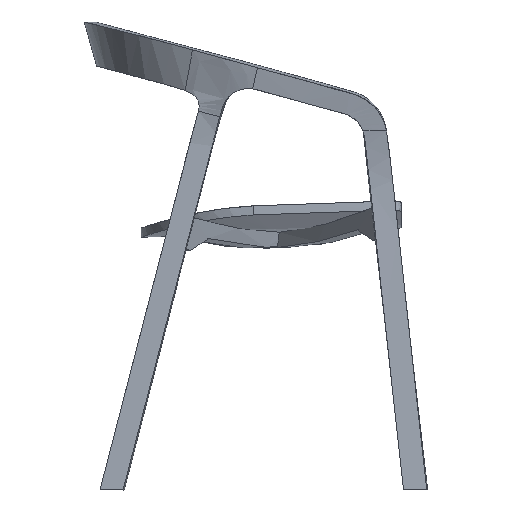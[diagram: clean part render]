
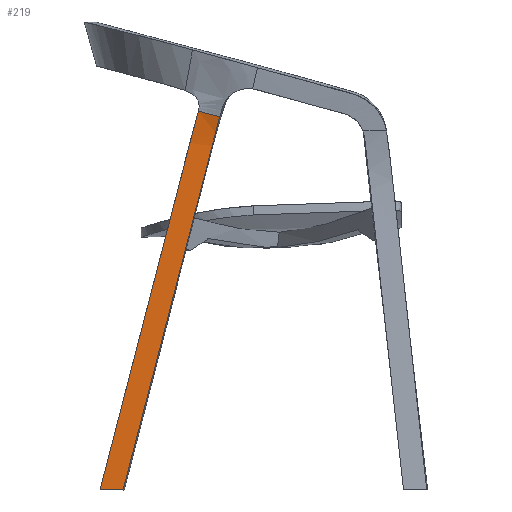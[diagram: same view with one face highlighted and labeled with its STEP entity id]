
A CAD part, left-side view. The second image highlights one B-rep face of the part: STEP entity #219.
In plain terms, the highlighted free-form (B-spline) face has degree [1, 3] with [2, 14] control points.
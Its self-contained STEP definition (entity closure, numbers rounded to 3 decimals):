
#219=ADVANCED_FACE('',(#285),#2913,.T.);
#285=FACE_OUTER_BOUND('',#351,.T.);
#351=EDGE_LOOP('',(#441,#442,#443,#444));
#441=ORIENTED_EDGE('',*,*,#1689,.T.);
#442=ORIENTED_EDGE('',*,*,#1690,.T.);
#443=ORIENTED_EDGE('',*,*,#1691,.T.);
#444=ORIENTED_EDGE('',*,*,#1692,.T.);
#753=PCURVE('',#2913,#1065);
#754=PCURVE('',#2913,#1066);
#755=PCURVE('',#2913,#1067);
#756=PCURVE('',#2913,#1068);
#1065=DEFINITIONAL_REPRESENTATION('',(#2034),#13270);
#1066=DEFINITIONAL_REPRESENTATION('',(#2036),#13270);
#1067=DEFINITIONAL_REPRESENTATION('',(#2038),#13270);
#1068=DEFINITIONAL_REPRESENTATION('',(#2040),#13270);
#1377=SURFACE_CURVE('',#2033,(#753),.PCURVE_S1.);
#1378=SURFACE_CURVE('',#2035,(#754),.PCURVE_S1.);
#1379=SURFACE_CURVE('',#2037,(#755),.PCURVE_S1.);
#1380=SURFACE_CURVE('',#2039,(#756),.PCURVE_S1.);
#1689=EDGE_CURVE('',#2627,#2628,#1377,.T.);
#1690=EDGE_CURVE('',#2628,#2626,#1378,.T.);
#1691=EDGE_CURVE('',#2626,#2625,#1379,.T.);
#1692=EDGE_CURVE('',#2625,#2627,#1380,.T.);
#2033=B_SPLINE_CURVE_WITH_KNOTS('',1,(#3446,#3447),.UNSPECIFIED.,.F.,.F.,
(2,2),(0.,37.945),.UNSPECIFIED.);
#2034=B_SPLINE_CURVE_WITH_KNOTS('',1,(#3448,#3449),.UNSPECIFIED.,.F.,.F.,
(2,2),(0.,37.945),.UNSPECIFIED.);
#2035=B_SPLINE_CURVE_WITH_KNOTS('',3,(#3450,#3451,#3452,#3453,#3454,#3455,
#3456,#3457,#3458,#3459,#3460,#3461),.UNSPECIFIED.,.F.,.F.,(4,1,1,1,1,1,
1,1,1,4),(0.,40.342,80.684,121.026,161.368,
242.052,322.736,403.42,484.104,645.472),
 .UNSPECIFIED.);
#2036=B_SPLINE_CURVE_WITH_KNOTS('',1,(#3462,#3463),.UNSPECIFIED.,.F.,.F.,
(2,2),(0.,645.472),.UNSPECIFIED.);
#2037=B_SPLINE_CURVE_WITH_KNOTS('',1,(#3464,#3465),.UNSPECIFIED.,.F.,.F.,
(2,2),(-38.196,0.),.UNSPECIFIED.);
#2038=B_SPLINE_CURVE_WITH_KNOTS('',1,(#3466,#3467),.UNSPECIFIED.,.F.,.F.,
(2,2),(-38.196,0.),.UNSPECIFIED.);
#2039=B_SPLINE_CURVE_WITH_KNOTS('',3,(#3468,#3469,#3470,#3471,#3472,#3473,
#3474,#3475,#3476,#3477,#3478,#3479,#3480,#3481),.UNSPECIFIED.,.F.,.F.,
(4,1,1,1,1,1,1,1,1,1,1,4),(-641.835,-481.376,-401.147,
-320.917,-240.688,-160.459,-120.344,
-80.229,-60.172,-40.115,-20.057,
0.),.UNSPECIFIED.);
#2040=B_SPLINE_CURVE_WITH_KNOTS('',1,(#3482,#3483),.UNSPECIFIED.,.F.,.F.,
(2,2),(-641.835,0.),.UNSPECIFIED.);
#2625=VERTEX_POINT('',#3442);
#2626=VERTEX_POINT('',#3443);
#2627=VERTEX_POINT('',#3444);
#2628=VERTEX_POINT('',#3445);
#2913=B_SPLINE_SURFACE_WITH_KNOTS('',1,3,((#3414,#3415,#3416,#3417,#3418,
#3419,#3420,#3421,#3422,#3423,#3424,#3425,#3426,#3427),(#3428,#3429,#3430,
#3431,#3432,#3433,#3434,#3435,#3436,#3437,#3438,#3439,#3440,#3441)),
 .UNSPECIFIED.,.F.,.F.,.F.,(2,2),(4,1,1,1,1,1,1,1,1,1,1,4),(0.,37.945),
(0.,20.057,40.115,60.172,80.229,
120.344,160.459,240.688,320.917,401.147,
481.376,641.835),.UNSPECIFIED.);
#3414=CARTESIAN_POINT('',(-273.413,73.173,612.117));
#3415=CARTESIAN_POINT('',(-272.035,74.805,605.883));
#3416=CARTESIAN_POINT('',(-269.705,77.821,593.26));
#3417=CARTESIAN_POINT('',(-267.292,83.024,574.302));
#3418=CARTESIAN_POINT('',(-267.327,88.113,555.18));
#3419=CARTESIAN_POINT('',(-267.73,94.659,529.647));
#3420=CARTESIAN_POINT('',(-268.112,102.923,497.744));
#3421=CARTESIAN_POINT('',(-268.792,116.1,446.692));
#3422=CARTESIAN_POINT('',(-269.618,132.587,382.88));
#3423=CARTESIAN_POINT('',(-270.619,152.364,306.304));
#3424=CARTESIAN_POINT('',(-271.618,172.143,229.728));
#3425=CARTESIAN_POINT('',(-272.95,198.515,127.627));
#3426=CARTESIAN_POINT('',(-273.949,218.294,51.051));
#3427=CARTESIAN_POINT('',(-274.616,231.48,0.));
#3428=CARTESIAN_POINT('',(-268.73,108.264,621.009));
#3429=CARTESIAN_POINT('',(-267.789,109.98,614.619));
#3430=CARTESIAN_POINT('',(-266.132,113.45,601.803));
#3431=CARTESIAN_POINT('',(-264.659,118.656,582.485));
#3432=CARTESIAN_POINT('',(-264.534,123.752,563.094));
#3433=CARTESIAN_POINT('',(-265.176,130.465,537.194));
#3434=CARTESIAN_POINT('',(-265.634,138.828,504.83));
#3435=CARTESIAN_POINT('',(-266.095,152.192,453.057));
#3436=CARTESIAN_POINT('',(-267.035,168.942,388.334));
#3437=CARTESIAN_POINT('',(-268.014,189.016,310.667));
#3438=CARTESIAN_POINT('',(-269.02,209.096,233.));
#3439=CARTESIAN_POINT('',(-270.374,235.871,129.445));
#3440=CARTESIAN_POINT('',(-271.378,255.951,51.778));
#3441=CARTESIAN_POINT('',(-272.05,269.337,0.));
#3442=CARTESIAN_POINT('',(-274.616,231.48,0.));
#3443=CARTESIAN_POINT('',(-272.05,269.337,0.));
#3444=CARTESIAN_POINT('',(-273.413,73.173,612.117));
#3445=CARTESIAN_POINT('',(-268.73,108.264,621.009));
#3446=CARTESIAN_POINT('',(-273.413,73.173,612.117));
#3447=CARTESIAN_POINT('',(-268.73,108.264,621.009));
#3448=CARTESIAN_POINT('',(0.,0.));
#3449=CARTESIAN_POINT('',(37.945,0.));
#3450=CARTESIAN_POINT('',(-268.73,108.264,621.009));
#3451=CARTESIAN_POINT('',(-266.848,111.695,608.23));
#3452=CARTESIAN_POINT('',(-263.984,118.712,582.521));
#3453=CARTESIAN_POINT('',(-265.084,128.792,543.666));
#3454=CARTESIAN_POINT('',(-265.634,138.828,504.83));
#3455=CARTESIAN_POINT('',(-266.095,152.192,453.057));
#3456=CARTESIAN_POINT('',(-267.035,168.942,388.334));
#3457=CARTESIAN_POINT('',(-268.014,189.016,310.667));
#3458=CARTESIAN_POINT('',(-269.02,209.096,233.));
#3459=CARTESIAN_POINT('',(-270.374,235.871,129.445));
#3460=CARTESIAN_POINT('',(-271.378,255.951,51.778));
#3461=CARTESIAN_POINT('',(-272.05,269.337,0.));
#3462=CARTESIAN_POINT('',(37.945,0.));
#3463=CARTESIAN_POINT('',(37.945,641.835));
#3464=CARTESIAN_POINT('',(-272.05,269.337,0.));
#3465=CARTESIAN_POINT('',(-274.616,231.48,0.));
#3466=CARTESIAN_POINT('',(37.945,641.835));
#3467=CARTESIAN_POINT('',(0.,641.835));
#3468=CARTESIAN_POINT('',(-274.616,231.48,0.));
#3469=CARTESIAN_POINT('',(-273.949,218.294,51.051));
#3470=CARTESIAN_POINT('',(-272.95,198.515,127.627));
#3471=CARTESIAN_POINT('',(-271.618,172.143,229.728));
#3472=CARTESIAN_POINT('',(-270.619,152.364,306.304));
#3473=CARTESIAN_POINT('',(-269.618,132.587,382.88));
#3474=CARTESIAN_POINT('',(-268.792,116.1,446.692));
#3475=CARTESIAN_POINT('',(-268.112,102.923,497.744));
#3476=CARTESIAN_POINT('',(-267.73,94.659,529.647));
#3477=CARTESIAN_POINT('',(-267.327,88.113,555.18));
#3478=CARTESIAN_POINT('',(-267.292,83.024,574.302));
#3479=CARTESIAN_POINT('',(-269.705,77.821,593.26));
#3480=CARTESIAN_POINT('',(-272.035,74.805,605.883));
#3481=CARTESIAN_POINT('',(-273.413,73.173,612.117));
#3482=CARTESIAN_POINT('',(0.,641.835));
#3483=CARTESIAN_POINT('',(0.,0.));
#13270=(
GEOMETRIC_REPRESENTATION_CONTEXT(2)
PARAMETRIC_REPRESENTATION_CONTEXT()
REPRESENTATION_CONTEXT('pspace','')
);
